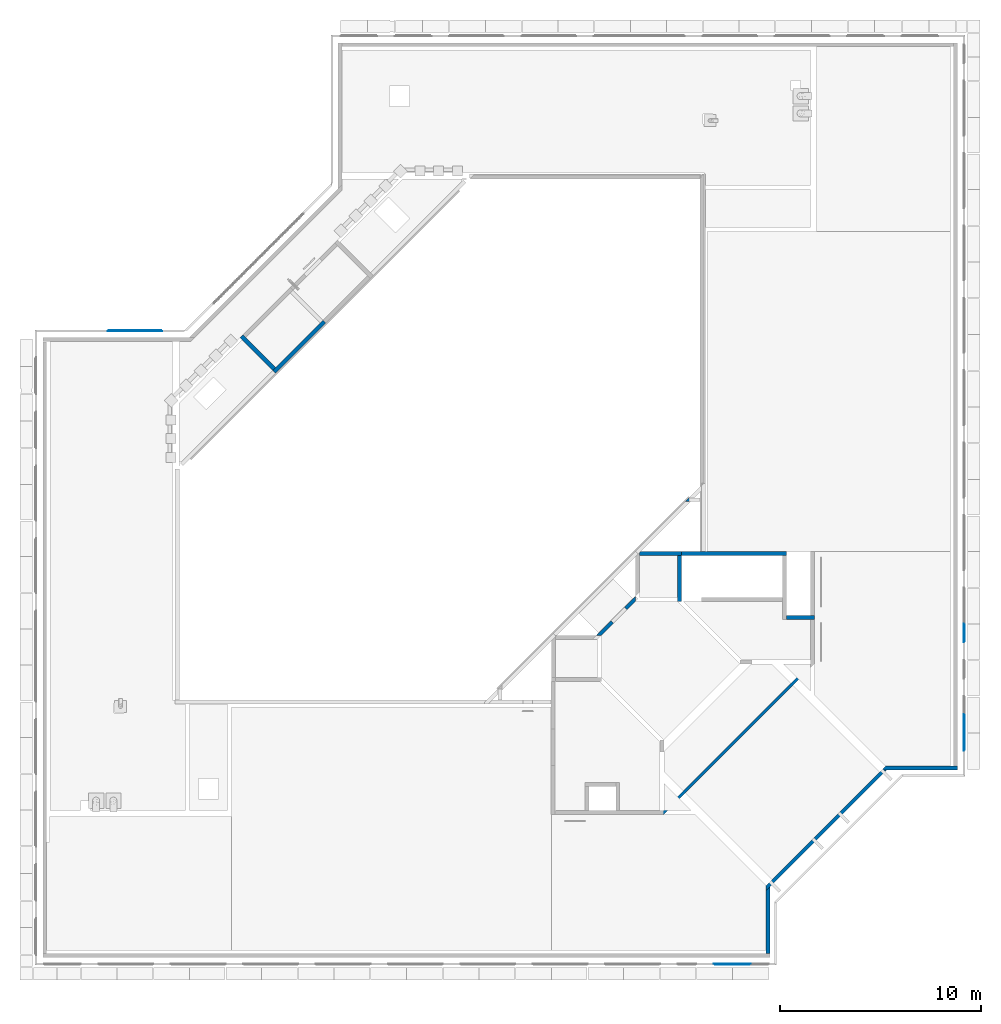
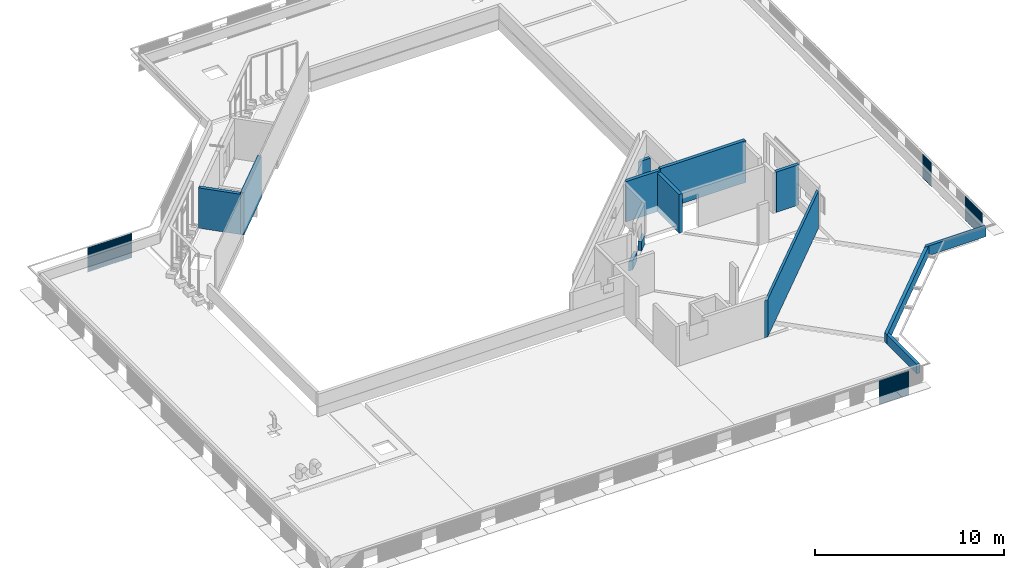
# One storey, part 11 of 37: 21 walls.
"""IFC4X3_ADD2 building model written with IfcOpenShell, lengths in millimetres."""

from ifc_helpers import new_model, si_unit, direction, frame, frame_2d, origin_with_axes, origin_2d_with_axis, place, context, subcontext, project, spatial, polyline, rectangle, outline, extrude, material, type_object, element, save


model = new_model("IFC4X3_ADD2")

# Units and contexts
model_context = context("Model", 3, precision=1e-05, world=origin_with_axes(), true_north=direction((0.0, 1.0)))
body_context = subcontext(model_context, "Body", "Model", "MODEL_VIEW")
ifc_project = project(units=[si_unit("LENGTHUNIT", "METRE", prefix="MILLI"), si_unit("AREAUNIT", "SQUARE_METRE"), si_unit("VOLUMEUNIT", "CUBIC_METRE"), si_unit("PLANEANGLEUNIT", "RADIAN"), si_unit("TIMEUNIT", "SECOND"), si_unit("MASSUNIT", "GRAM")], contexts=[model_context])

# Site, building, storey
site_placement = place(None, origin_with_axes())
site = spatial("IfcSite", under=ifc_project, at=site_placement, Name="Site", CompositionType="ELEMENT")
building_placement = place(site_placement, origin_with_axes())
building = spatial("IfcBuilding", under=site, at=building_placement, Name="IFC Building Story")
storey_placement = place(building_placement, frame((0.0, 0.0, 14400.0), z_axis=(0.0, 0.0, 1.0), x_axis=(1.0, 0.0, 0.0)))
storey = spatial("IfcBuildingStorey", under=building, at=storey_placement, Name="040", Elevation=14400.0)

# Walls
ifc_material_1 = material(Name="BB_Beton_Bestaand")
wall_type_1 = type_object("IfcWallType", Name="BB_Beton_Bestaand 200", PredefinedType="NOTDEFINED", material=ifc_material_1)
wall_1_placement = place(storey_placement, origin_with_axes())
element("IfcWall", 1, at=wall_1_placement, inside=storey, type_object=wall_type_1, Name="Basic Wall:BB_XX_Wand uit beton, 200 mm", ObjectType="Basic Wall:BB_XX_Wand uit beton, 200 mm", PredefinedType="SOLIDWALL", context=body_context, shape_type="SweptSolid", body=[
    extrude(outline(polyline([(1248.189552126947, -102.1895521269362), (-861.8104478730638, -102.1895521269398), (-861.8104478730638, 8.75820850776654), (-772.758208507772, 97.81044787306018), (1248.189552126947, 97.81044787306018), (1248.189552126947, -102.1895521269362)])), frame((-14863.18955212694, 20002.18955212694, -200.0), z_axis=(0.0, 0.0, 1.0), x_axis=(1.0, 0.0, 0.0)), (0.0, 0.0, 1.0), 2600.0),
])
wall_2_placement = place(storey_placement, origin_with_axes())
element("IfcWall", 2, at=wall_2_placement, inside=storey, type_object=wall_type_1, Name="Basic Wall:BB_XX_Wand uit beton, 200 mm", ObjectType="Basic Wall:BB_XX_Wand uit beton, 200 mm", PredefinedType="SOLIDWALL", context=body_context, shape_type="SweptSolid", body=[
    extrude(rectangle(XDim=2299.99999999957, YDim=199.9999999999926, at=frame_2d((0.0, 0.0), x_axis=(0.707106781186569, -0.707106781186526))), frame((-34692.94678887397, 29976.54455835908, -200.0), z_axis=(0.0, 0.0, 1.0), x_axis=(1.0, 0.0, 0.0)), (0.0, 0.0, 1.0), 2600.0),
])
wall_3_placement = place(storey_placement, origin_with_axes())
element("IfcWall", 3, at=wall_3_placement, inside=storey, type_object=wall_type_1, Name="Basic Wall:BB_XX_Wand uit beton, 200 mm", ObjectType="Basic Wall:BB_XX_Wand uit beton, 200 mm", PredefinedType="SOLIDWALL", context=body_context, shape_type="SweptSolid", body=[
    extrude(rectangle(XDim=3530.000000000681, YDim=199.9999999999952, at=frame_2d((0.0, 0.0), x_axis=(0.7071067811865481, 0.7071067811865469))), frame((-32631.7305217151, 30269.9938725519, -200.0), z_axis=(0.0, 0.0, 1.0), x_axis=(1.0, 0.0, 0.0)), (0.0, 0.0, 1.0), 2742.175538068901),
])
wall_4_placement = place(storey_placement, origin_with_axes())
element("IfcWall", 4, at=wall_4_placement, inside=storey, type_object=wall_type_1, Name="Basic Wall:BB_XX_Wand uit beton, 200 mm", ObjectType="Basic Wall:BB_XX_Wand uit beton, 200 mm", PredefinedType="SOLIDWALL", context=body_context, shape_type="SweptSolid", body=[
    extrude(rectangle(XDim=5214.999999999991, YDim=200.0, at=origin_2d_with_axis()), frame((-11007.50000000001, 20000.0, -200.0), z_axis=(0.0, 0.0, 1.0), x_axis=(1.0, 0.0, 0.0)), (0.0, 0.0, 1.0), 2700.0),
])
wall_5_placement = place(storey_placement, origin_with_axes())
element("IfcWall", 5, at=wall_5_placement, inside=storey, type_object=wall_type_1, Name="Basic Wall:BB_XX_Wand uit beton, 200 mm", ObjectType="Basic Wall:BB_XX_Wand uit beton, 200 mm", PredefinedType="SOLIDWALL", context=body_context, shape_type="SweptSolid", body=[
    extrude(rectangle(XDim=2299.9999999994, YDim=199.9999999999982, at=frame_2d((0.0, 0.0), x_axis=(0.0, 1.0))), frame((-13715.0, 18749.9999999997, -200.0), z_axis=(0.0, 0.0, 1.0), x_axis=(1.0, 0.0, 0.0)), (0.0, 0.0, 1.0), 2500.0),
])
wall_6_placement = place(storey_placement, origin_with_axes())
element("IfcWall", 6, at=wall_6_placement, inside=storey, type_object=wall_type_1, Name="Basic Wall:BB_XX_Wand uit beton, 200 mm", ObjectType="Basic Wall:BB_XX_Wand uit beton, 200 mm", PredefinedType="SOLIDWALL", context=body_context, shape_type="SweptSolid", body=[
    extrude(rectangle(XDim=1399.99999999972, YDim=200.0, at=origin_2d_with_axis()), frame((-7700.00000000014, 16800.0, -200.0), z_axis=(0.0, 0.0, 1.0), x_axis=(1.0, 0.0, 0.0)), (0.0, 0.0, 1.0), 2600.0),
])
wall_type_2 = type_object("IfcWallType", Name="BB_Beton_Bestaand 190", PredefinedType="NOTDEFINED", material=ifc_material_1)
wall_7_placement = place(storey_placement, origin_with_axes())
element("IfcWall", 7, at=wall_7_placement, inside=storey, type_object=wall_type_2, Name="Basic Wall:BB_XX_Wand uit beton, 190 mm", ObjectType="Basic Wall:BB_XX_Wand uit beton, 190 mm", PredefinedType="SOLIDWALL", context=body_context, shape_type="SweptSolid", body=[
    extrude(outline(polyline([(-1741.34776310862, 95.0), (1836.34776310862, 95.0), (1836.34776310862, -95.0), (-1931.34776310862, -95.0), (-1741.34776310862, 95.0)])), frame((-1741.34776310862, 9320.0, -200.0), z_axis=(0.0, 0.0, 1.0), x_axis=(1.0, 0.0, 0.0)), (0.0, 0.0, 1.0), 619.999999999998),
])
wall_8_placement = place(storey_placement, origin_with_axes())
element("IfcWall", 8, at=wall_8_placement, inside=storey, type_object=wall_type_2, Name="Basic Wall:BB_XX_Wand uit beton, 190 mm", ObjectType="Basic Wall:BB_XX_Wand uit beton, 190 mm", PredefinedType="SOLIDWALL", context=body_context, shape_type="SweptSolid", body=[
    extrude(outline(polyline([(-2938.32738110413, -2803.977092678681), (2803.977092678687, 2938.327381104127), (3072.677669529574, 2938.327381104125), (-2938.32738110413, -3072.677669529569), (-2938.32738110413, -2803.977092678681)])), frame((-6476.672618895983, 6286.672618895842, -200.0), z_axis=(0.0, 0.0, 1.0), x_axis=(1.0, 0.0, 0.0)), (0.0, 0.0, 1.0), 619.999999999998),
])
wall_9_placement = place(storey_placement, origin_with_axes())
element("IfcWall", 9, at=wall_9_placement, inside=storey, type_object=wall_type_2, Name="Basic Wall:BB_XX_Wand uit beton, 190 mm", ObjectType="Basic Wall:BB_XX_Wand uit beton, 190 mm", PredefinedType="SOLIDWALL", context=body_context, shape_type="SweptSolid", body=[
    extrude(outline(polyline([(-95.0, -1606.99747468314), (-95.0, 1511.997474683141), (95.0, 1701.99747468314), (95.0, -1606.99747468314), (-95.0, -1606.99747468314)])), frame((-9320.0, 1701.99747468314, -200.0), z_axis=(0.0, 0.0, 1.0), x_axis=(1.0, 0.0, 0.0)), (0.0, 0.0, 1.0), 619.999999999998),
])
wall_10_placement = place(storey_placement, origin_with_axes())
element("IfcWall", 10, at=wall_10_placement, inside=storey, type_object=wall_type_2, Name="Basic Wall:BB_XX_Wand uit beton, 190 mm", ObjectType="Basic Wall:BB_XX_Wand uit beton, 190 mm", PredefinedType="SOLIDWALL", context=body_context, shape_type="SweptSolid", body=[
    extrude(outline(polyline([(398.2690296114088, 263.9187411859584), (-196.743596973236, -331.0938853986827), (-465.4441738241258, -331.0938853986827), (263.9187411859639, 398.2690296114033), (398.2690296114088, 263.9187411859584)])), frame((-17403.2564030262, 16246.0938853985, -200.0), z_axis=(0.0, 0.0, 1.0), x_axis=(1.0, 0.0, 0.0)), (0.0, 0.0, 1.0), 600.000000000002),
])
wall_11_placement = place(storey_placement, origin_with_axes())
element("IfcWall", 11, at=wall_11_placement, inside=storey, type_object=wall_type_2, Name="Basic Wall:BB_XX_Wand uit beton, 190 mm", ObjectType="Basic Wall:BB_XX_Wand uit beton, 190 mm", PredefinedType="SOLIDWALL", context=body_context, shape_type="SweptSolid", body=[
    extrude(outline(polyline([(242.7055377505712, 108.3552493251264), (-175.530393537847, -309.8806819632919), (-309.8806819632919, -175.530393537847), (242.7055377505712, 377.0558261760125), (242.7055377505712, 108.3552493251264)])), frame((-16157.70553774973, 17491.64475067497, -200.0), z_axis=(0.0, 0.0, 1.0), x_axis=(1.0, 0.0, 0.0)), (0.0, 0.0, 1.0), 600.000000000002),
])
ifc_material_2 = material(Name="BB_Metselwerk_Betonsteen")
wall_type_3 = type_object("IfcWallType", Name="BB_Metselwerk_Betonsteen 190", PredefinedType="NOTDEFINED", material=ifc_material_2)
wall_12_placement = place(storey_placement, origin_with_axes())
element("IfcWall", 12, at=wall_12_placement, inside=storey, type_object=wall_type_3, Name="Basic Wall:BB_03.09.24#03_Wand uit metselwerk, 190 mm", ObjectType="Basic Wall:BB_03.09.24#03_Wand uit metselwerk, 190 mm", PredefinedType="SOLIDWALL", context=body_context, shape_type="SweptSolid", body=[
    extrude(outline(polyline([(-229.8221358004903, 95.0), (324.8221358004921, 95.0), (324.8221358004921, -95.0), (-419.8221358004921, -95.0), (-229.8221358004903, 95.0)])), frame((-13019.82620168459, 22660.0, -200.0), z_axis=(0.0, 0.0, 1.0), x_axis=(1.0, 0.0, 0.0)), (0.0, 0.0, 1.0), 1450.0),
])
wall_type_4 = type_object("IfcWallType", Name="BB_Metselwerk_Betonsteen 140", PredefinedType="NOTDEFINED", material=ifc_material_2)
wall_13_placement = place(storey_placement, origin_with_axes())
element("IfcWall", 13, at=wall_13_placement, inside=storey, type_object=wall_type_4, Name="Basic Wall:BB_03.09.24#01_Wand uit metselwerk, 140 mm", ObjectType="Basic Wall:BB_03.09.24#01_Wand uit metselwerk, 140 mm", PredefinedType="SOLIDWALL", context=body_context, shape_type="SweptSolid", body=[
    extrude(outline(polyline([(3699.554288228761, 3600.559338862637), (-3600.559338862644, -3699.554288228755), (-3798.549237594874, -3699.554288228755), (3699.554288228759, 3798.549237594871), (3699.554288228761, 3600.559338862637)])), frame((-10911.56470948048, 10699.55428822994, -200.0), z_axis=(0.0, 0.0, 1.0), x_axis=(1.0, 0.0, 0.0)), (0.0, 0.0, 1.0), 2400.0),
])
ifc_material_3 = material(Name="BB_Metaal_Aluminium_Puntprofiel")
wall_type_5 = type_object("IfcWallType", Name="BB_Metaal_Aluminium_Puntprofiel 1", PredefinedType="NOTDEFINED", material=ifc_material_3)
wall_14_placement = place(storey_placement, origin_with_axes())
element("IfcWall", 14, at=wall_14_placement, inside=storey, type_object=wall_type_5, Name="BB_07.10_Gevelbekleding_PuntProfiel, 900 mm, vol_GMO:900 x 1600 mm", ObjectType="BB_07.10_Gevelbekleding_PuntProfiel, 900 mm, vol_GMO:900 x 1600 mm", PredefinedType="NOTDEFINED", context=body_context, shape_type="SweptSolid", body=[
    extrude(outline(polyline([(-10.06027913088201, -349.0000000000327), (-10.06027913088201, -371.0000000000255), (23.93972086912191, -405.0000000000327), (-10.06027913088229, -439.0000000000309), (-10.06027913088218, -461.0000000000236), (-11.06027913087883, -461.4142135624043), (-11.06027913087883, -438.5857864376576), (22.52550730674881, -405.0000000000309), (-11.06027913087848, -371.4142135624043), (-11.06027913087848, -348.5857864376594), (22.52550730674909, -315.0000000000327), (-11.0602791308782, -281.4142135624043), (-11.0602791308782, -258.5857864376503), (22.52550730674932, -225.0000000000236), (-11.06027913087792, -191.4142135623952), (-11.06027913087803, -168.585786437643), (22.5255073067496, -135.0000000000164), (-11.0602791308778, -101.4142135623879), (-11.06027913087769, -78.58578643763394), (22.52550730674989, -45.00000000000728), (-11.06027913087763, -11.41421356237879), (-11.06027913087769, 11.41421356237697), (22.52550730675, 45.00000000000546), (-11.0602791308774, 78.58578643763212), (-11.0602791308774, 101.4142135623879), (22.52550730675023, 135.0000000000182), (-11.06027913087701, 168.585786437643), (-11.06027913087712, 191.4142135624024), (22.5255073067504, 225.0000000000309), (-11.06027913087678, 258.5857864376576), (-11.06027913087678, 281.4142135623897), (22.5255073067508, 315.0000000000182), (-11.06027913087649, 348.585786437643), (-11.06027913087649, 371.4142135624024), (22.52550730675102, 405.0000000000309), (-11.06027913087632, 438.5857864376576), (-11.06027913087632, 461.4142135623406), (-10.0602791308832, 460.9999999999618), (-10.0602791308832, 439.0000000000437), (23.93972086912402, 405.0000000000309), (-10.06027913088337, 371.0000000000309), (-10.06027913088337, 349.0000000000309), (23.93972086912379, 315.0000000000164), (-10.0602791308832, 281.0000000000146), (-10.0602791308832, 259.0000000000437), (23.93972086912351, 225.0000000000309), (-10.060279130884, 191.0000000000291), (-10.060279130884, 169.0000000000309), (23.93972086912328, 135.0000000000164), (-10.06027913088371, 101.0000000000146), (-10.06027913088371, 79.00000000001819), (23.93972086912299, 45.00000000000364), (-10.06027913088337, 11.00000000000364), (-10.06027913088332, -10.99999999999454), (23.93972086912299, -45.00000000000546), (-10.0602791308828, -79.00000000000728), (-10.0602791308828, -101.0000000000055), (23.93972086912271, -135.0000000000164), (-10.06027913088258, -169.0000000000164), (-10.06027913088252, -191.0000000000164), (23.93972086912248, -225.0000000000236), (-10.06027913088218, -259.0000000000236), (-10.06027913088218, -281.0000000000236), (23.9397208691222, -315.0000000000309), (-10.06027913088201, -349.0000000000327)])), frame((426.0602791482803, 11530.00000000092, -960.0), z_axis=(0.0, 0.0, 1.0), x_axis=(1.0, 0.0, 0.0)), (0.0, 0.0, 1.0), 1600.0),
])
wall_15_placement = place(storey_placement, origin_with_axes())
element("IfcWall", 15, at=wall_15_placement, inside=storey, type_object=wall_type_5, Name="BB_07.10_Gevelbekleding_PuntProfiel, 900 mm, vol_GMO:900 x 1600 mm", ObjectType="BB_07.10_Gevelbekleding_PuntProfiel, 900 mm, vol_GMO:900 x 1600 mm", PredefinedType="NOTDEFINED", context=body_context, shape_type="SweptSolid", body=[
    extrude(outline(polyline([(-10.06027913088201, -349.0000000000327), (-10.06027913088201, -371.0000000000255), (23.93972086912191, -405.0000000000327), (-10.06027913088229, -439.0000000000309), (-10.06027913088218, -461.0000000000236), (-11.06027913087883, -461.4142135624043), (-11.06027913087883, -438.5857864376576), (22.52550730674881, -405.0000000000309), (-11.06027913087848, -371.4142135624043), (-11.06027913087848, -348.5857864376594), (22.52550730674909, -315.0000000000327), (-11.0602791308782, -281.4142135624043), (-11.0602791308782, -258.5857864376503), (22.52550730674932, -225.0000000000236), (-11.06027913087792, -191.4142135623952), (-11.06027913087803, -168.585786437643), (22.5255073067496, -135.0000000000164), (-11.0602791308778, -101.4142135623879), (-11.06027913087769, -78.58578643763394), (22.52550730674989, -45.00000000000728), (-11.06027913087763, -11.41421356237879), (-11.06027913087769, 11.41421356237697), (22.52550730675, 45.00000000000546), (-11.0602791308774, 78.58578643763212), (-11.0602791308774, 101.4142135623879), (22.52550730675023, 135.0000000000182), (-11.06027913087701, 168.585786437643), (-11.06027913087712, 191.4142135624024), (22.5255073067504, 225.0000000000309), (-11.06027913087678, 258.5857864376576), (-11.06027913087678, 281.4142135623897), (22.5255073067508, 315.0000000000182), (-11.06027913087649, 348.585786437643), (-11.06027913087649, 371.4142135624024), (22.52550730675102, 405.0000000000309), (-11.06027913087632, 438.5857864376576), (-11.06027913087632, 461.4142135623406), (-10.0602791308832, 460.9999999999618), (-10.0602791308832, 439.0000000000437), (23.93972086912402, 405.0000000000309), (-10.06027913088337, 371.0000000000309), (-10.06027913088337, 349.0000000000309), (23.93972086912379, 315.0000000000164), (-10.0602791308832, 281.0000000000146), (-10.0602791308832, 259.0000000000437), (23.93972086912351, 225.0000000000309), (-10.060279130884, 191.0000000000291), (-10.060279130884, 169.0000000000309), (23.93972086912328, 135.0000000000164), (-10.06027913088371, 101.0000000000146), (-10.06027913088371, 79.00000000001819), (23.93972086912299, 45.00000000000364), (-10.06027913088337, 11.00000000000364), (-10.06027913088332, -10.99999999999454), (23.93972086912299, -45.00000000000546), (-10.0602791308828, -79.00000000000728), (-10.0602791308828, -101.0000000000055), (23.93972086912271, -135.0000000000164), (-10.06027913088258, -169.0000000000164), (-10.06027913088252, -191.0000000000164), (23.93972086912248, -225.0000000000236), (-10.06027913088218, -259.0000000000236), (-10.06027913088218, -281.0000000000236), (23.9397208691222, -315.0000000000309), (-10.06027913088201, -349.0000000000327)])), frame((426.0602791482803, 10630.00000000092, -960.0), z_axis=(0.0, 0.0, 1.0), x_axis=(1.0, 0.0, 0.0)), (0.0, 0.0, 1.0), 1600.0),
])
wall_16_placement = place(storey_placement, origin_with_axes())
element("IfcWall", 16, at=wall_16_placement, inside=storey, type_object=wall_type_5, Name="BB_07.10_Gevelbekleding_PuntProfiel, 900 mm, vol_GMO:900 x 1600 mm", ObjectType="BB_07.10_Gevelbekleding_PuntProfiel, 900 mm, vol_GMO:900 x 1600 mm", PredefinedType="NOTDEFINED", context=body_context, shape_type="SweptSolid", body=[
    extrude(outline(polyline([(-10.06027913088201, -349.0000000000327), (-10.06027913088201, -371.0000000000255), (23.93972086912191, -405.0000000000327), (-10.06027913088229, -439.0000000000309), (-10.06027913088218, -461.0000000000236), (-11.06027913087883, -461.4142135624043), (-11.06027913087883, -438.5857864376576), (22.52550730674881, -405.0000000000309), (-11.06027913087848, -371.4142135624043), (-11.06027913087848, -348.5857864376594), (22.52550730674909, -315.0000000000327), (-11.0602791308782, -281.4142135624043), (-11.0602791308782, -258.5857864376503), (22.52550730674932, -225.0000000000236), (-11.06027913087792, -191.4142135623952), (-11.06027913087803, -168.585786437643), (22.5255073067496, -135.0000000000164), (-11.0602791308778, -101.4142135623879), (-11.06027913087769, -78.58578643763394), (22.52550730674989, -45.00000000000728), (-11.06027913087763, -11.41421356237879), (-11.06027913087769, 11.41421356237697), (22.52550730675, 45.00000000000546), (-11.0602791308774, 78.58578643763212), (-11.0602791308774, 101.4142135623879), (22.52550730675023, 135.0000000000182), (-11.06027913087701, 168.585786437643), (-11.06027913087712, 191.4142135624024), (22.5255073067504, 225.0000000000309), (-11.06027913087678, 258.5857864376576), (-11.06027913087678, 281.4142135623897), (22.5255073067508, 315.0000000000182), (-11.06027913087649, 348.585786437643), (-11.06027913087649, 371.4142135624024), (22.52550730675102, 405.0000000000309), (-11.06027913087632, 438.5857864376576), (-11.06027913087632, 461.4142135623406), (-10.0602791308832, 460.9999999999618), (-10.0602791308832, 439.0000000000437), (23.93972086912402, 405.0000000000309), (-10.06027913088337, 371.0000000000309), (-10.06027913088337, 349.0000000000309), (23.93972086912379, 315.0000000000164), (-10.0602791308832, 281.0000000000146), (-10.0602791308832, 259.0000000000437), (23.93972086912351, 225.0000000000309), (-10.060279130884, 191.0000000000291), (-10.060279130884, 169.0000000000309), (23.93972086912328, 135.0000000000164), (-10.06027913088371, 101.0000000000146), (-10.06027913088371, 79.00000000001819), (23.93972086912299, 45.00000000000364), (-10.06027913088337, 11.00000000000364), (-10.06027913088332, -10.99999999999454), (23.93972086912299, -45.00000000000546), (-10.0602791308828, -79.00000000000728), (-10.0602791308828, -101.0000000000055), (23.93972086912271, -135.0000000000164), (-10.06027913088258, -169.0000000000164), (-10.06027913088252, -191.0000000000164), (23.93972086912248, -225.0000000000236), (-10.06027913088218, -259.0000000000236), (-10.06027913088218, -281.0000000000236), (23.9397208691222, -315.0000000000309), (-10.06027913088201, -349.0000000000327)])), frame((426.0602791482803, 16030.00000000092, -960.0), z_axis=(0.0, 0.0, 1.0), x_axis=(1.0, 0.0, 0.0)), (0.0, 0.0, 1.0), 1600.0),
])
wall_17_placement = place(storey_placement, origin_with_axes())
element("IfcWall", 17, at=wall_17_placement, inside=storey, type_object=wall_type_5, Name="BB_07.10_Gevelbekleding_PuntProfiel, 900 mm, vol_GMO:900 x 1600 mm", ObjectType="BB_07.10_Gevelbekleding_PuntProfiel, 900 mm, vol_GMO:900 x 1600 mm", PredefinedType="NOTDEFINED", context=body_context, shape_type="SweptSolid", body=[
    extrude(outline(polyline([(-349.00000000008, 10.06027913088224), (-371.0000000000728, 10.06027913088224), (-405.0000000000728, -23.93972086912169), (-439.0000000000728, 10.06027913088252), (-461.0000000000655, 10.06027913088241), (-461.4142135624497, 11.060279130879), (-438.5857864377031, 11.060279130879), (-405.0000000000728, -22.52550730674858), (-371.414213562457, 11.06027913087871), (-348.5857864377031, 11.06027913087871), (-315.00000000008, -22.52550730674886), (-281.4142135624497, 11.06027913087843), (-258.5857864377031, 11.06027913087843), (-225.0000000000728, -22.52550730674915), (-191.4142135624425, 11.06027913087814), (-168.5857864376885, 11.06027913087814), (-135.0000000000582, -22.52550730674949), (-101.4142135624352, 11.06027913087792), (-78.58578643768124, 11.06027913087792), (-45.00000000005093, -22.52550730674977), (-11.41421356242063, 11.06027913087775), (11.41421356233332, 11.06027913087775), (44.99999999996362, -22.52550730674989), (78.58578643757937, 11.0602791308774), (101.4142135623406, 11.0602791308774), (134.9999999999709, -22.52550730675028), (168.5857864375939, 11.06027913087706), (191.4142135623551, 11.06027913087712), (224.9999999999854, -22.52550730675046), (258.5857864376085, 11.06027913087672), (281.4142135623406, 11.06027913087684), (314.9999999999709, -22.52550730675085), (348.5857864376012, 11.06027913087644), (371.4142135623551, 11.06027913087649), (404.9999999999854, -22.52550730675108), (438.5857864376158, 11.06027913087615), (461.4142135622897, 11.06027913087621), (460.9999999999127, 10.06027913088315), (438.9999999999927, 10.06027913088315), (404.9999999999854, -23.93972086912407), (370.9999999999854, 10.06027913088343), (348.9999999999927, 10.06027913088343), (314.9999999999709, -23.93972086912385), (280.9999999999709, 10.06027913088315), (259.0, 10.06027913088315), (224.9999999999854, -23.93972086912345), (190.9999999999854, 10.060279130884), (168.9999999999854, 10.060279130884), (134.9999999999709, -23.93972086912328), (100.9999999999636, 10.06027913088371), (78.9999999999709, 10.06027913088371), (44.99999999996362, -23.93972086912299), (10.99999999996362, 10.06027913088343), (-11.00000000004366, 10.06027913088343), (-45.00000000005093, -23.93972086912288), (-79.00000000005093, 10.06027913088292), (-101.0000000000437, 10.06027913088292), (-135.0000000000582, -23.9397208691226), (-169.0000000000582, 10.06027913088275), (-191.0000000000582, 10.06027913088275), (-225.0000000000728, -23.93972086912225), (-259.0000000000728, 10.06027913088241), (-281.0000000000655, 10.06027913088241), (-315.00000000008, -23.93972086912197), (-349.00000000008, 10.06027913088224)])), frame((-11550.0, -426.0602791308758, -960.0), z_axis=(0.0, 0.0, 1.0), x_axis=(1.0, 0.0, 0.0)), (0.0, 0.0, 1.0), 1600.0),
])
wall_18_placement = place(storey_placement, origin_with_axes())
element("IfcWall", 18, at=wall_18_placement, inside=storey, type_object=wall_type_5, Name="BB_07.10_Gevelbekleding_PuntProfiel, 900 mm, vol_GMO:900 x 1600 mm", ObjectType="BB_07.10_Gevelbekleding_PuntProfiel, 900 mm, vol_GMO:900 x 1600 mm", PredefinedType="NOTDEFINED", context=body_context, shape_type="SweptSolid", body=[
    extrude(outline(polyline([(-349.00000000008, 10.06027913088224), (-371.0000000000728, 10.06027913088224), (-405.0000000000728, -23.93972086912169), (-439.0000000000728, 10.06027913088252), (-461.0000000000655, 10.06027913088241), (-461.4142135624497, 11.060279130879), (-438.5857864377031, 11.060279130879), (-405.0000000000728, -22.52550730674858), (-371.414213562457, 11.06027913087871), (-348.5857864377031, 11.06027913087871), (-315.00000000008, -22.52550730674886), (-281.4142135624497, 11.06027913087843), (-258.5857864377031, 11.06027913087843), (-225.0000000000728, -22.52550730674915), (-191.4142135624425, 11.06027913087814), (-168.5857864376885, 11.06027913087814), (-135.0000000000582, -22.52550730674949), (-101.4142135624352, 11.06027913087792), (-78.58578643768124, 11.06027913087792), (-45.00000000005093, -22.52550730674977), (-11.41421356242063, 11.06027913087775), (11.41421356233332, 11.06027913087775), (44.99999999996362, -22.52550730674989), (78.58578643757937, 11.0602791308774), (101.4142135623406, 11.0602791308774), (134.9999999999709, -22.52550730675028), (168.5857864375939, 11.06027913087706), (191.4142135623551, 11.06027913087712), (224.9999999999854, -22.52550730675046), (258.5857864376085, 11.06027913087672), (281.4142135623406, 11.06027913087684), (314.9999999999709, -22.52550730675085), (348.5857864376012, 11.06027913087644), (371.4142135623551, 11.06027913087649), (404.9999999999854, -22.52550730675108), (438.5857864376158, 11.06027913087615), (461.4142135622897, 11.06027913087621), (460.9999999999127, 10.06027913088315), (438.9999999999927, 10.06027913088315), (404.9999999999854, -23.93972086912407), (370.9999999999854, 10.06027913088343), (348.9999999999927, 10.06027913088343), (314.9999999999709, -23.93972086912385), (280.9999999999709, 10.06027913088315), (259.0, 10.06027913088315), (224.9999999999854, -23.93972086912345), (190.9999999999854, 10.060279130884), (168.9999999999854, 10.060279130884), (134.9999999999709, -23.93972086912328), (100.9999999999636, 10.06027913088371), (78.9999999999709, 10.06027913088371), (44.99999999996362, -23.93972086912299), (10.99999999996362, 10.06027913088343), (-11.00000000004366, 10.06027913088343), (-45.00000000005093, -23.93972086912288), (-79.00000000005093, 10.06027913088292), (-101.0000000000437, 10.06027913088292), (-135.0000000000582, -23.9397208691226), (-169.0000000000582, 10.06027913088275), (-191.0000000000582, 10.06027913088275), (-225.0000000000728, -23.93972086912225), (-259.0000000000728, 10.06027913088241), (-281.0000000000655, 10.06027913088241), (-315.00000000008, -23.93972086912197), (-349.00000000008, 10.06027913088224)])), frame((-10649.99999999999, -426.0602791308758, -960.0), z_axis=(0.0, 0.0, 1.0), x_axis=(1.0, 0.0, 0.0)), (0.0, 0.0, 1.0), 1600.0),
])
wall_type_6 = type_object("IfcWallType", Name="BB_Metaal_Aluminium_Puntprofiel 0", PredefinedType="NOTDEFINED", material=ifc_material_3)
wall_19_placement = place(storey_placement, origin_with_axes())
element("IfcWall", 19, at=wall_19_placement, inside=storey, type_object=wall_type_6, Name="BB_07.10_Gevelbekleding_PuntProfiel, 900 mm, vol_GMO:900 x 1600 mm", ObjectType="BB_07.10_Gevelbekleding_PuntProfiel, 900 mm, vol_GMO:900 x 1600 mm", PredefinedType="NOTDEFINED", context=body_context, shape_type="SweptSolid", body=[
    extrude(outline(polyline([(349.0000000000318, -10.06027913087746), (371.0000000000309, -10.06027913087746), (405.0000000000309, 23.93972086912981), (439.0000000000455, -10.06027913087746), (460.9999999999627, -10.06027913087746), (461.4142135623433, -11.06027913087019), (438.5857864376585, -11.06027913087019), (405.0000000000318, 22.52550730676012), (371.4142135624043, -11.06027913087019), (348.5857864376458, -11.06027913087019), (315.0000000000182, 22.52550730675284), (281.4142135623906, -11.06027913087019), (258.5857864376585, -11.06027913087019), (225.0000000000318, 22.52550730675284), (191.4142135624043, -11.06027913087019), (168.5857864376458, -11.06027913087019), (135.0000000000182, 22.52550730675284), (101.4142135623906, -11.06027913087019), (78.58578643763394, -11.06027913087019), (45.00000000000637, 22.52550730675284), (11.4142135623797, -11.06027913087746), (-11.41421356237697, -11.06027913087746), (-45.00000000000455, 22.52550730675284), (-78.58578643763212, -11.06027913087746), (-101.414213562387, -11.06027913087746), (-135.0000000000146, 22.52550730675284), (-168.5857864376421, -11.06027913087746), (-191.4142135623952, -11.06027913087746), (-225.0000000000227, 22.52550730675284), (-258.5857864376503, -11.06027913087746), (-281.4142135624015, -11.06027913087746), (-315.0000000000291, 22.52550730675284), (-348.5857864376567, -11.06027913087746), (-371.4142135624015, -11.06027913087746), (-405.00000000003, 22.52550730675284), (-438.5857864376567, -11.06027913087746), (-461.4142135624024, -11.06027913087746), (-461.0000000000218, -10.06027913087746), (-439.00000000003, -10.06027913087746), (-405.00000000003, 23.93972086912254), (-371.0000000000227, -10.06027913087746), (-349.00000000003, -10.06027913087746), (-315.0000000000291, 23.93972086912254), (-281.0000000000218, -10.06027913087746), (-259.0000000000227, -10.06027913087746), (-225.0000000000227, 23.93972086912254), (-191.0000000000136, -10.06027913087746), (-169.0000000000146, -10.06027913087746), (-135.0000000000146, 23.93972086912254), (-101.0000000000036, -10.06027913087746), (-79.00000000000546, -10.06027913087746), (-45.00000000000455, 23.93972086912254), (-10.99999999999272, -10.06027913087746), (11.00000000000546, -10.06027913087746), (45.00000000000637, 23.93972086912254), (79.0000000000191, -10.06027913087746), (101.0000000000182, -10.06027913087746), (135.0000000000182, 23.93972086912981), (169.0000000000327, -10.06027913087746), (191.0000000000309, -10.06027913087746), (225.0000000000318, 23.93972086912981), (259.0000000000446, -10.06027913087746), (281.0000000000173, -10.06027913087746), (315.0000000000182, 23.93972086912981), (349.0000000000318, -10.06027913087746)])), frame((-39899.99999999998, 31056.06027913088, -960.0), z_axis=(0.0, 0.0, 1.0), x_axis=(1.0, 0.0, 0.0)), (0.0, 0.0, 1.0), 1600.0),
])
wall_20_placement = place(storey_placement, origin_with_axes())
element("IfcWall", 20, at=wall_20_placement, inside=storey, type_object=wall_type_6, Name="BB_07.10_Gevelbekleding_PuntProfiel, 900 mm, vol_GMO:900 x 1600 mm", ObjectType="BB_07.10_Gevelbekleding_PuntProfiel, 900 mm, vol_GMO:900 x 1600 mm", PredefinedType="NOTDEFINED", context=body_context, shape_type="SweptSolid", body=[
    extrude(outline(polyline([(349.0000000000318, -10.06027913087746), (371.0000000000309, -10.06027913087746), (405.0000000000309, 23.93972086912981), (439.0000000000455, -10.06027913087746), (460.9999999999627, -10.06027913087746), (461.4142135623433, -11.06027913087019), (438.5857864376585, -11.06027913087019), (405.0000000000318, 22.52550730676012), (371.4142135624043, -11.06027913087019), (348.5857864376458, -11.06027913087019), (315.0000000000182, 22.52550730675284), (281.4142135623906, -11.06027913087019), (258.5857864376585, -11.06027913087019), (225.0000000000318, 22.52550730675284), (191.4142135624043, -11.06027913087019), (168.5857864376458, -11.06027913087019), (135.0000000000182, 22.52550730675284), (101.4142135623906, -11.06027913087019), (78.58578643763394, -11.06027913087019), (45.00000000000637, 22.52550730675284), (11.4142135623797, -11.06027913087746), (-11.41421356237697, -11.06027913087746), (-45.00000000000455, 22.52550730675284), (-78.58578643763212, -11.06027913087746), (-101.414213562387, -11.06027913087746), (-135.0000000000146, 22.52550730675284), (-168.5857864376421, -11.06027913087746), (-191.4142135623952, -11.06027913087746), (-225.0000000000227, 22.52550730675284), (-258.5857864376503, -11.06027913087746), (-281.4142135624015, -11.06027913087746), (-315.0000000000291, 22.52550730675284), (-348.5857864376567, -11.06027913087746), (-371.4142135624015, -11.06027913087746), (-405.00000000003, 22.52550730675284), (-438.5857864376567, -11.06027913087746), (-461.4142135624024, -11.06027913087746), (-461.0000000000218, -10.06027913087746), (-439.00000000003, -10.06027913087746), (-405.00000000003, 23.93972086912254), (-371.0000000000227, -10.06027913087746), (-349.00000000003, -10.06027913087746), (-315.0000000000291, 23.93972086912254), (-281.0000000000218, -10.06027913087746), (-259.0000000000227, -10.06027913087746), (-225.0000000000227, 23.93972086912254), (-191.0000000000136, -10.06027913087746), (-169.0000000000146, -10.06027913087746), (-135.0000000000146, 23.93972086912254), (-101.0000000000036, -10.06027913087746), (-79.00000000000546, -10.06027913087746), (-45.00000000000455, 23.93972086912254), (-10.99999999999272, -10.06027913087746), (11.00000000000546, -10.06027913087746), (45.00000000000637, 23.93972086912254), (79.0000000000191, -10.06027913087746), (101.0000000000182, -10.06027913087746), (135.0000000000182, 23.93972086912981), (169.0000000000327, -10.06027913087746), (191.0000000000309, -10.06027913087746), (225.0000000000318, 23.93972086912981), (259.0000000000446, -10.06027913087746), (281.0000000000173, -10.06027913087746), (315.0000000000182, 23.93972086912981), (349.0000000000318, -10.06027913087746)])), frame((-41699.99999999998, 31056.06027913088, -960.0), z_axis=(0.0, 0.0, 1.0), x_axis=(1.0, 0.0, 0.0)), (0.0, 0.0, 1.0), 1600.0),
])
wall_type_7 = type_object("IfcWallType", Name="BB_Metaal_Aluminium_Puntprofiel 190.919", PredefinedType="NOTDEFINED", material=ifc_material_3)
wall_21_placement = place(storey_placement, origin_with_axes())
element("IfcWall", 21, at=wall_21_placement, inside=storey, type_object=wall_type_7, Name="BB_07.10_Gevelbekleding_PuntProfiel, 900 mm, vol_GMO:900 x 1600 mm", ObjectType="BB_07.10_Gevelbekleding_PuntProfiel, 900 mm, vol_GMO:900 x 1600 mm", PredefinedType="NOTDEFINED", context=body_context, shape_type="SweptSolid", body=[
    extrude(outline(polyline([(349.0000000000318, -10.06027913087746), (371.0000000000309, -10.06027913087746), (405.0000000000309, 23.93972086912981), (439.0000000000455, -10.06027913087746), (460.9999999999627, -10.06027913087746), (461.4142135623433, -11.06027913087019), (438.5857864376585, -11.06027913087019), (405.0000000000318, 22.52550730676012), (371.4142135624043, -11.06027913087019), (348.5857864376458, -11.06027913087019), (315.0000000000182, 22.52550730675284), (281.4142135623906, -11.06027913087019), (258.5857864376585, -11.06027913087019), (225.0000000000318, 22.52550730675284), (191.4142135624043, -11.06027913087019), (168.5857864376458, -11.06027913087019), (135.0000000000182, 22.52550730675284), (101.4142135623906, -11.06027913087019), (78.58578643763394, -11.06027913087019), (45.00000000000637, 22.52550730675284), (11.4142135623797, -11.06027913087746), (-11.41421356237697, -11.06027913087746), (-45.00000000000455, 22.52550730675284), (-78.58578643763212, -11.06027913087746), (-101.414213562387, -11.06027913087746), (-135.0000000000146, 22.52550730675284), (-168.5857864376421, -11.06027913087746), (-191.4142135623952, -11.06027913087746), (-225.0000000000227, 22.52550730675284), (-258.5857864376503, -11.06027913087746), (-281.4142135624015, -11.06027913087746), (-315.0000000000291, 22.52550730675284), (-348.5857864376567, -11.06027913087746), (-371.4142135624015, -11.06027913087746), (-405.00000000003, 22.52550730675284), (-438.5857864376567, -11.06027913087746), (-461.4142135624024, -11.06027913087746), (-461.0000000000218, -10.06027913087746), (-439.00000000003, -10.06027913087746), (-405.00000000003, 23.93972086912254), (-371.0000000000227, -10.06027913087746), (-349.00000000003, -10.06027913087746), (-315.0000000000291, 23.93972086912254), (-281.0000000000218, -10.06027913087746), (-259.0000000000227, -10.06027913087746), (-225.0000000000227, 23.93972086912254), (-191.0000000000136, -10.06027913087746), (-169.0000000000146, -10.06027913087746), (-135.0000000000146, 23.93972086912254), (-101.0000000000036, -10.06027913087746), (-79.00000000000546, -10.06027913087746), (-45.00000000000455, 23.93972086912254), (-10.99999999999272, -10.06027913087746), (11.00000000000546, -10.06027913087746), (45.00000000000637, 23.93972086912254), (79.0000000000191, -10.06027913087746), (101.0000000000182, -10.06027913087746), (135.0000000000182, 23.93972086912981), (169.0000000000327, -10.06027913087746), (191.0000000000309, -10.06027913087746), (225.0000000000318, 23.93972086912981), (259.0000000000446, -10.06027913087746), (281.0000000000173, -10.06027913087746), (315.0000000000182, 23.93972086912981), (349.0000000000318, -10.06027913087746)])), frame((-40799.99999999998, 31056.06027913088, -960.0), z_axis=(0.0, 0.0, 1.0), x_axis=(1.0, 0.0, 0.0)), (0.0, 0.0, 1.0), 1600.0),
])

save(model, "model.ifc")
